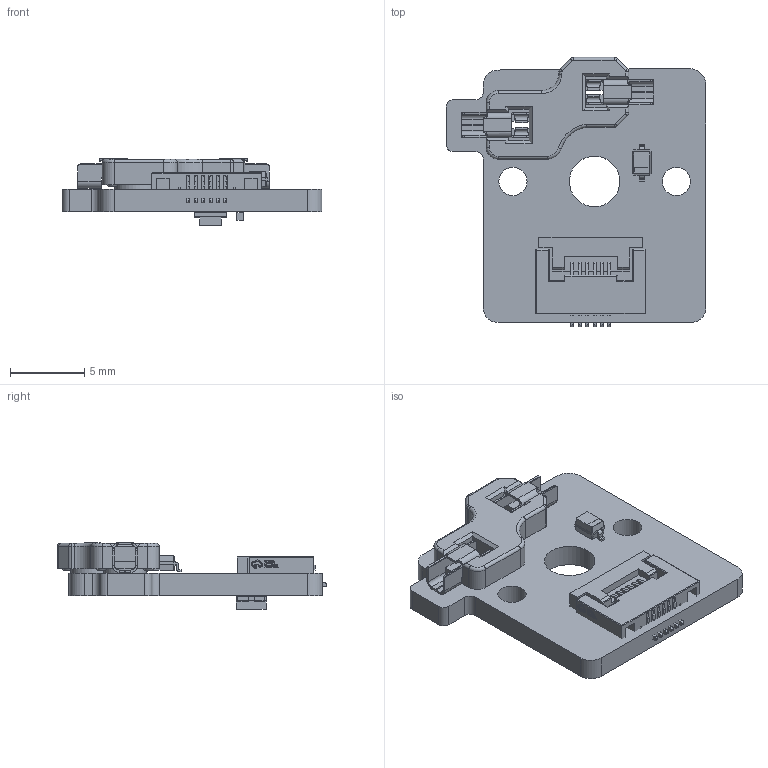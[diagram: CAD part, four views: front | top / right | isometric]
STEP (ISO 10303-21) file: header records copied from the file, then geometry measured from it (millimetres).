
FILE_DESCRIPTION(('KiCad electronic assembly'),'2;1');
FILE_NAME('FPC-assembly.step','2026-10-01T17:33:05',('Pcbnew'),('Kicad') ,'Open CASCADE STEP processor 7.9','KiCad to STEP converter','Unknown' );
FILE_SCHEMA(('AUTOMOTIVE_DESIGN { 1 0 10303 214 1 1 1 1 }'));
Length unit declared in the file: millimetre
Products named in the file (19): FPC-assembly 1; D_SOD-323; FPC-SMD_6P-P0.50_HC-FPC-0.5-6P-FH20; HS_CPG135001S30_Choc; pin; socket; LED_WS2812B-2020_2.2x2.0x0.84mm; substrate; optical encapsulation; solder terminal; IC depiction; red die depiction; green die depiction; blue die depiction; C_0402_1005Metric; AdafruitNeoKeyChocSocketBreakout_PCB
Assembly tree (19 placements, depth 3):
  FPC-assembly 1
    D_SOD-323
    FPC-SMD_6P-P0.50_HC-FPC-0.5-6P-FH20
    HS_CPG135001S30_Choc
      pin  x2
      socket
    LED_WS2812B-2020_2.2x2.0x0.84mm
      substrate
      optical encapsulation
      solder terminal
      solder terminal
      solder terminal
      solder terminal
      IC depiction
      red die depiction
      green die depiction
      blue die depiction
    C_0402_1005Metric
    AdafruitNeoKeyChocSocketBreakout_PCB
Bounding box: 17.5 x 18.12 x 4.48 mm (x, y, z)
Volume: 484.7 mm3; surface area: 1235.7 mm2
Topology: 26 solids, 26 shells, 1050 faces, 2762 edges, 1777 vertices
Faces by surface type: plane 702, cylinder 170, bspline 158, torus 10, cone 10
Full cylindrical faces by diameter (mm): 1.9 x2, 2.9 x2, 3 x2, 3.4 x1
Entity records: 35130 total; most frequent: CARTESIAN_POINT 7045, ORIENTED_EDGE 5052, DIRECTION 4227, EDGE_CURVE 2526, LINE 1937, VECTOR 1937, VERTEX_POINT 1631, AXIS2_PLACEMENT_3D 1145
